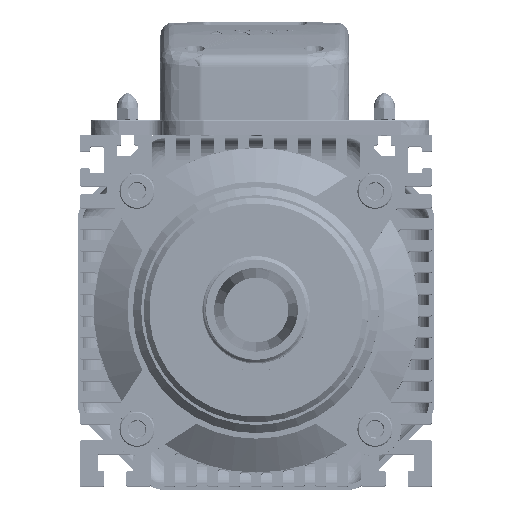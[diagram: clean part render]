
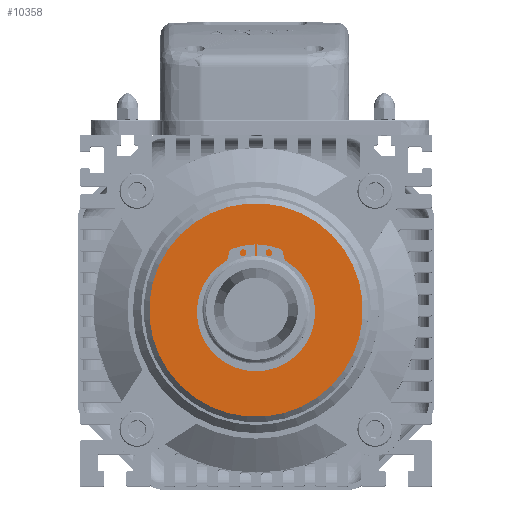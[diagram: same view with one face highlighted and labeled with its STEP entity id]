
A CAD part, top view. The second image highlights one B-rep face of the part: STEP entity #10358.
In plain terms, the highlighted planar face has unit normal (0, 0, 1).
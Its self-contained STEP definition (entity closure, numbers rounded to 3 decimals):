
#598 = DIRECTION ( 'NONE',  ( 0., 0., 1. ) ) ;
#1963 = CARTESIAN_POINT ( 'NONE',  ( 20., 0., 0. ) ) ;
#9004 = CARTESIAN_POINT ( 'NONE',  ( 0., 0., 0. ) ) ;
#9782 = DIRECTION ( 'NONE',  ( 1., 0., 0. ) ) ;
#10358 = ADVANCED_FACE ( 'NONE', ( #66923, #88685 ), #80955, .F. ) ;
#11412 = CARTESIAN_POINT ( 'NONE',  ( 0., 0., 0. ) ) ;
#11950 = ORIENTED_EDGE ( 'NONE', *, *, #65092, .F. ) ;
#20076 = VERTEX_POINT ( 'NONE', #29454 ) ;
#20665 = DIRECTION ( 'NONE',  ( 0., 0., 1. ) ) ;
#21448 = CIRCLE ( 'NONE', #25032, 20. ) ;
#25032 = AXIS2_PLACEMENT_3D ( 'NONE', #11412, #598, #95377 ) ;
#29454 = CARTESIAN_POINT ( 'NONE',  ( -20., 0., 0. ) ) ;
#30442 = CARTESIAN_POINT ( 'NONE',  ( 39.5, 0., 0. ) ) ;
#35298 = CIRCLE ( 'NONE', #90888, 39.5 ) ;
#40080 = ORIENTED_EDGE ( 'NONE', *, *, #42029, .T. ) ;
#42029 = EDGE_CURVE ( 'NONE', #75143, #49590, #102294, .T. ) ;
#48499 = DIRECTION ( 'NONE',  ( -1., 0., 0. ) ) ;
#48753 = CIRCLE ( 'NONE', #92802, 20. ) ;
#48812 = DIRECTION ( 'NONE',  ( 1., 0., 0. ) ) ;
#49590 = VERTEX_POINT ( 'NONE', #30442 ) ;
#53090 = CARTESIAN_POINT ( 'NONE',  ( 0., 0., 0. ) ) ;
#57989 = AXIS2_PLACEMENT_3D ( 'NONE', #9004, #103883, #93030 ) ;
#59367 = DIRECTION ( 'NONE',  ( 0., 0., -1. ) ) ;
#59689 = DIRECTION ( 'NONE',  ( 0., 0., 1. ) ) ;
#61524 = EDGE_LOOP ( 'NONE', ( #40080, #61800 ) ) ;
#61800 = ORIENTED_EDGE ( 'NONE', *, *, #99087, .T. ) ;
#65092 = EDGE_CURVE ( 'NONE', #20076, #104258, #48753, .T. ) ;
#66923 = FACE_BOUND ( 'NONE', #104751, .T. ) ;
#70157 = CARTESIAN_POINT ( 'NONE',  ( 0., 20., 0. ) ) ;
#70471 = CARTESIAN_POINT ( 'NONE',  ( 0., 0., 0. ) ) ;
#75143 = VERTEX_POINT ( 'NONE', #90406 ) ;
#80517 = AXIS2_PLACEMENT_3D ( 'NONE', #70157, #59367, #48499 ) ;
#80883 = ORIENTED_EDGE ( 'NONE', *, *, #101474, .F. ) ;
#80955 = PLANE ( 'NONE',  #80517 ) ;
#88685 = FACE_OUTER_BOUND ( 'NONE', #61524, .T. ) ;
#90406 = CARTESIAN_POINT ( 'NONE',  ( -39.5, 0., 0. ) ) ;
#90888 = AXIS2_PLACEMENT_3D ( 'NONE', #70471, #59689, #48812 ) ;
#92802 = AXIS2_PLACEMENT_3D ( 'NONE', #53090, #20665, #9782 ) ;
#93030 = DIRECTION ( 'NONE',  ( 1., 0., 0. ) ) ;
#95377 = DIRECTION ( 'NONE',  ( 1., 0., 0. ) ) ;
#99087 = EDGE_CURVE ( 'NONE', #49590, #75143, #35298, .T. ) ;
#101474 = EDGE_CURVE ( 'NONE', #104258, #20076, #21448, .T. ) ;
#102294 = CIRCLE ( 'NONE', #57989, 39.5 ) ;
#103883 = DIRECTION ( 'NONE',  ( 0., 0., 1. ) ) ;
#104258 = VERTEX_POINT ( 'NONE', #1963 ) ;
#104751 = EDGE_LOOP ( 'NONE', ( #80883, #11950 ) ) ;
